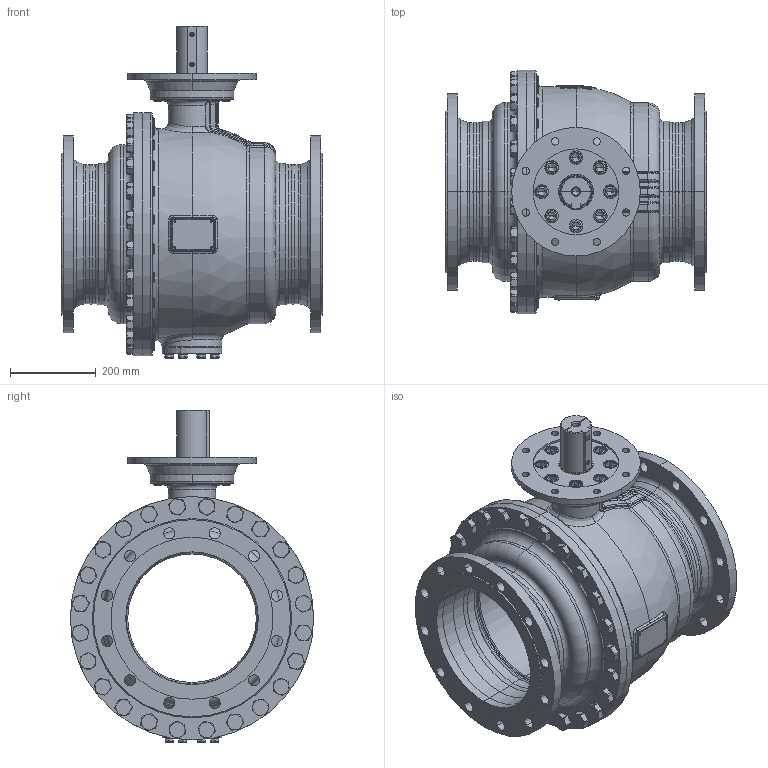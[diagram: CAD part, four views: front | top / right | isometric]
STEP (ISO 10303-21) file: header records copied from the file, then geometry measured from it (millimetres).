
FILE_DESCRIPTION((''),'2;1');
FILE_NAME('KHI-F_300-PN016-F25-P_SW0001','2026-02-05T15:01:45',('fischerkl'),('KLINGER'),'CREO PARAMETRIC BY PTC INC, 2023014','CREO PARAMETRIC BY PTC INC, 2023014','');
FILE_SCHEMA(('CONFIG_CONTROL_DESIGN'));
Products named in the file (1): KHI-F_300-PN016-F25-P_SW0001
Bounding box: 610 x 568 x 774.8 mm (x, y, z)
Volume: 29978565.3 mm3; surface area: 4501390.1 mm2
Topology: 1 solids, 4 shells, 3407 faces, 8630 edges, 5396 vertices
Faces by surface type: plane 1749, cylinder 769, cone 448, torus 301, bspline 111, sphere 29
Entity records: 145054 total; most frequent: CARTESIAN_POINT 64126, ORIENTED_EDGE 17208, DIRECTION 16577, EDGE_CURVE 8604, AXIS2_PLACEMENT_3D 6321, VERTEX_POINT 5396, VECTOR 3935, LINE 3935
